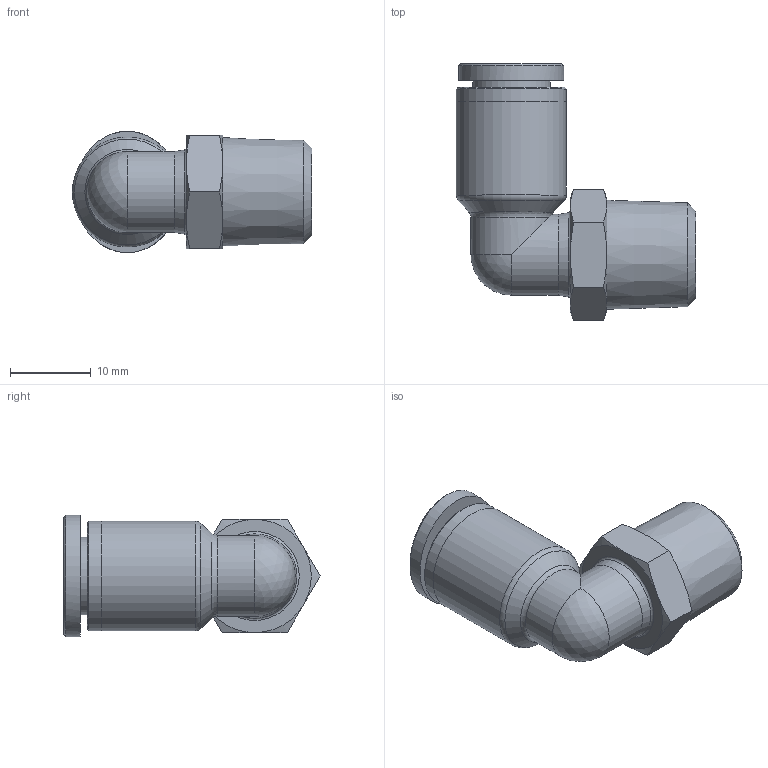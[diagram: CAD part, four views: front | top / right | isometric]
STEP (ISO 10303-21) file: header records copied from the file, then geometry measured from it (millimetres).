
FILE_DESCRIPTION((''),'2;1');
FILE_NAME('C:\Users\user0117\Desktop\김진일\G-FITTING INCH\5-16\G-FITTING INCH (STEP)\GPL 5_16-R02.stp','2020-05-04T14:01:22',('user0117'),(''),'Autodesk Inventor 2013','Autodesk Inventor 2013','');
FILE_SCHEMA(('AUTOMOTIVE_DESIGN { 1 0 10303 214 1 1 1 1 }'));
Length unit declared in the file: millimetre
Products named in the file (6): GPL 5_16-R02; GPL BODY 0802; GPL BODY 08(PLASTIC); G-COLLAR 5-16L; COLLAR G08L; SLEEVE G08
Assembly tree (5 placements, depth 3):
  GPL 5_16-R02
    GPL BODY 0802
    GPL BODY 08(PLASTIC)
    G-COLLAR 5-16L
      COLLAR G08L
      SLEEVE G08
Bounding box: 29.6 x 31.68 x 15 mm (x, y, z)
Volume: 3978.6 mm3; surface area: 3925.4 mm2
Topology: 4 solids, 4 shells, 417 faces, 1145 edges, 756 vertices
Faces by surface type: plane 352, cone 21, bspline 20, cylinder 19, torus 3, sphere 2
Full cylindrical faces by diameter (mm): 5.5 x1, 6 x1, 7 x1, 8 x1, 8.2 x3, 8.8 x1, 9.6 x1, 10 x1, 13.6 x2
Entity records: 13391 total; most frequent: CARTESIAN_POINT 2810, ORIENTED_EDGE 2224, DIRECTION 1997, EDGE_CURVE 1112, VECTOR 981, LINE 981, VERTEX_POINT 749, AXIS2_PLACEMENT_3D 508
